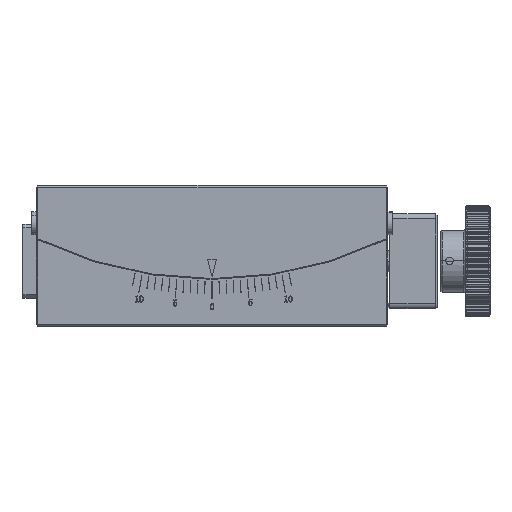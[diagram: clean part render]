
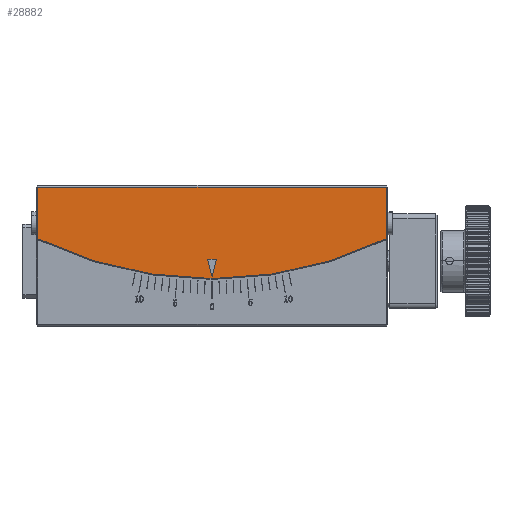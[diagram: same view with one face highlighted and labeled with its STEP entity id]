
A CAD part, top view. The second image highlights one B-rep face of the part: STEP entity #28882.
In plain terms, the highlighted planar face has unit normal (0, 0, 1).
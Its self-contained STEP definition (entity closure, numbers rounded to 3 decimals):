
#584 = EDGE_LOOP ( 'NONE', ( #36313, #5192, #20766, #2046 ) ) ;
#1155 = EDGE_CURVE ( 'NONE', #45974, #6528, #27191, .T. ) ;
#1215 = CARTESIAN_POINT ( 'NONE',  ( 912.071, 1053.054, 1081.876 ) ) ;
#1348 = CARTESIAN_POINT ( 'NONE',  ( 913.071, 1024.154, 1081.876 ) ) ;
#1519 = EDGE_LOOP ( 'NONE', ( #14556, #32326, #30970 ) ) ;
#2046 = ORIENTED_EDGE ( 'NONE', *, *, #1155, .T. ) ;
#2611 = CARTESIAN_POINT ( 'NONE',  ( 1111.071, 1053.054, 1081.876 ) ) ;
#2731 = DIRECTION ( 'NONE',  ( 1., 0., 0. ) ) ;
#2807 = LINE ( 'NONE', #37484, #15728 ) ;
#3272 = VECTOR ( 'NONE', #36781, 1000. ) ;
#3955 = CARTESIAN_POINT ( 'NONE',  ( 913.071, 1053.054, 1081.876 ) ) ;
#5192 = ORIENTED_EDGE ( 'NONE', *, *, #47248, .T. ) ;
#6528 = VERTEX_POINT ( 'NONE', #34651 ) ;
#7501 = EDGE_CURVE ( 'NONE', #47314, #6528, #23908, .T. ) ;
#8452 = EDGE_CURVE ( 'NONE', #45652, #45974, #23607, .T. ) ;
#12327 = FACE_BOUND ( 'NONE', #1519, .T. ) ;
#12471 = VERTEX_POINT ( 'NONE', #19332 ) ;
#14291 = PLANE ( 'NONE',  #43419 ) ;
#14556 = ORIENTED_EDGE ( 'NONE', *, *, #26251, .F. ) ;
#15728 = VECTOR ( 'NONE', #30344, 1000. ) ;
#16211 = DIRECTION ( 'NONE',  ( 0., 0., -1. ) ) ;
#16452 = DIRECTION ( 'NONE',  ( 1., 0., 0. ) ) ;
#16885 = VECTOR ( 'NONE', #20636, 1000. ) ;
#19332 = CARTESIAN_POINT ( 'NONE',  ( 1014.571, 1012.054, 1081.876 ) ) ;
#20636 = DIRECTION ( 'NONE',  ( -1., 0., 0. ) ) ;
#20766 = ORIENTED_EDGE ( 'NONE', *, *, #8452, .T. ) ;
#21669 = CARTESIAN_POINT ( 'NONE',  ( 1012.071, 1002.054, 1081.876 ) ) ;
#22368 = VECTOR ( 'NONE', #42429, 1000. ) ;
#23105 = VECTOR ( 'NONE', #46886, 1000. ) ;
#23607 = LINE ( 'NONE', #1215, #16885 ) ;
#23908 = CIRCLE ( 'NONE', #46666, 228. ) ;
#25230 = CARTESIAN_POINT ( 'NONE',  ( 1009.571, 1012.054, 1081.876 ) ) ;
#25342 = LINE ( 'NONE', #43294, #28326 ) ;
#26251 = EDGE_CURVE ( 'NONE', #46286, #28947, #25342, .T. ) ;
#27191 = LINE ( 'NONE', #1348, #22368 ) ;
#27341 = FACE_OUTER_BOUND ( 'NONE', #584, .T. ) ;
#28326 = VECTOR ( 'NONE', #35683, 1000. ) ;
#28882 = ADVANCED_FACE ( 'NONE', ( #12327, #27341 ), #14291, .T. ) ;
#28947 = VERTEX_POINT ( 'NONE', #21669 ) ;
#30344 = DIRECTION ( 'NONE',  ( 0., 1., 0. ) ) ;
#30564 = EDGE_CURVE ( 'NONE', #28947, #12471, #35575, .T. ) ;
#30744 = CARTESIAN_POINT ( 'NONE',  ( 1012.071, 1229.054, 1081.876 ) ) ;
#30970 = ORIENTED_EDGE ( 'NONE', *, *, #30564, .F. ) ;
#31149 = CARTESIAN_POINT ( 'NONE',  ( 1014.571, 1012.054, 1081.876 ) ) ;
#32326 = ORIENTED_EDGE ( 'NONE', *, *, #38122, .F. ) ;
#32983 = CARTESIAN_POINT ( 'NONE',  ( 1012.071, 1014.054, 1081.876 ) ) ;
#34651 = CARTESIAN_POINT ( 'NONE',  ( 913.071, 1023.669, 1081.876 ) ) ;
#35575 = LINE ( 'NONE', #31149, #23105 ) ;
#35683 = DIRECTION ( 'NONE',  ( 0.243, -0.97, 0. ) ) ;
#36300 = LINE ( 'NONE', #25230, #3272 ) ;
#36313 = ORIENTED_EDGE ( 'NONE', *, *, #7501, .F. ) ;
#36781 = DIRECTION ( 'NONE',  ( -1., 0., 0. ) ) ;
#37484 = CARTESIAN_POINT ( 'NONE',  ( 1111.071, 1054.054, 1081.876 ) ) ;
#38122 = EDGE_CURVE ( 'NONE', #12471, #46286, #36300, .T. ) ;
#39825 = CARTESIAN_POINT ( 'NONE',  ( 1009.571, 1012.054, 1081.876 ) ) ;
#40366 = DIRECTION ( 'NONE',  ( 0., 0., 1. ) ) ;
#41407 = CARTESIAN_POINT ( 'NONE',  ( 1111.071, 1023.669, 1081.876 ) ) ;
#42429 = DIRECTION ( 'NONE',  ( 0., -1., 0. ) ) ;
#43294 = CARTESIAN_POINT ( 'NONE',  ( 1012.071, 1002.054, 1081.876 ) ) ;
#43419 = AXIS2_PLACEMENT_3D ( 'NONE', #32983, #40366, #2731 ) ;
#45652 = VERTEX_POINT ( 'NONE', #2611 ) ;
#45974 = VERTEX_POINT ( 'NONE', #3955 ) ;
#46286 = VERTEX_POINT ( 'NONE', #39825 ) ;
#46666 = AXIS2_PLACEMENT_3D ( 'NONE', #30744, #16211, #16452 ) ;
#46886 = DIRECTION ( 'NONE',  ( 0.243, 0.97, 0. ) ) ;
#47248 = EDGE_CURVE ( 'NONE', #47314, #45652, #2807, .T. ) ;
#47314 = VERTEX_POINT ( 'NONE', #41407 ) ;
